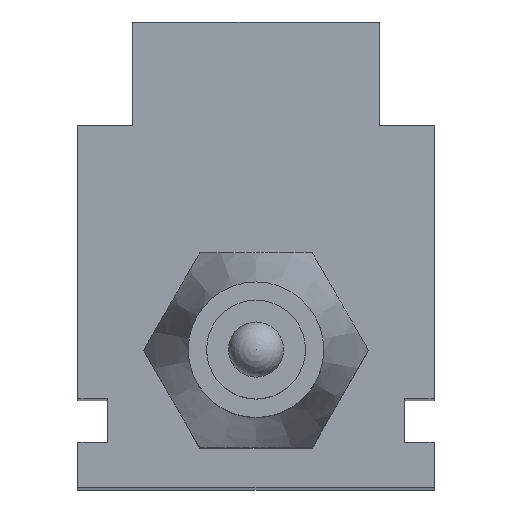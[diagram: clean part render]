
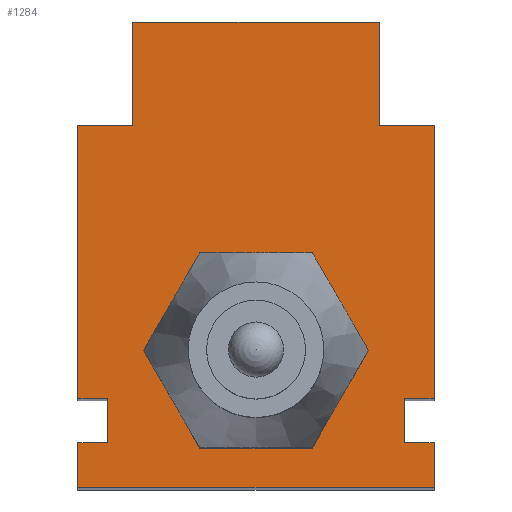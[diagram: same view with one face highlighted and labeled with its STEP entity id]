
A CAD part, top view. The second image highlights one B-rep face of the part: STEP entity #1284.
In plain terms, the highlighted planar face has unit normal (0, 0, 1).
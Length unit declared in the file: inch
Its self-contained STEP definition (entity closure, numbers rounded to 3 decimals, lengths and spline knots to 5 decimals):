
#40=FACE_BOUND('',#164,.T.);
#61=CIRCLE('',#1375,0.178);
#85=FACE_OUTER_BOUND('',#163,.T.);
#163=EDGE_LOOP('',(#853,#854,#855,#856,#857,#858,#859,#860,#861,#862,#863,
#864,#865,#866,#867,#868));
#164=EDGE_LOOP('',(#869));
#269=LINE('',#1824,#410);
#270=LINE('',#1827,#411);
#272=LINE('',#1831,#413);
#275=LINE('',#1837,#416);
#276=LINE('',#1839,#417);
#277=LINE('',#1841,#418);
#278=LINE('',#1843,#419);
#279=LINE('',#1845,#420);
#280=LINE('',#1847,#421);
#281=LINE('',#1849,#422);
#282=LINE('',#1851,#423);
#283=LINE('',#1853,#424);
#284=LINE('',#1855,#425);
#285=LINE('',#1857,#426);
#286=LINE('',#1859,#427);
#287=LINE('',#1860,#428);
#410=VECTOR('',#1489,0.3937);
#411=VECTOR('',#1492,0.3937);
#413=VECTOR('',#1496,0.3937);
#416=VECTOR('',#1501,0.3937);
#417=VECTOR('',#1502,0.3937);
#418=VECTOR('',#1503,0.3937);
#419=VECTOR('',#1504,0.3937);
#420=VECTOR('',#1505,0.3937);
#421=VECTOR('',#1506,0.3937);
#422=VECTOR('',#1507,0.3937);
#423=VECTOR('',#1508,0.3937);
#424=VECTOR('',#1509,0.3937);
#425=VECTOR('',#1510,0.3937);
#426=VECTOR('',#1511,0.3937);
#427=VECTOR('',#1512,0.3937);
#428=VECTOR('',#1513,0.3937);
#545=VERTEX_POINT('',#1819);
#546=VERTEX_POINT('',#1822);
#547=VERTEX_POINT('',#1826);
#548=VERTEX_POINT('',#1830);
#550=VERTEX_POINT('',#1836);
#551=VERTEX_POINT('',#1838);
#552=VERTEX_POINT('',#1840);
#553=VERTEX_POINT('',#1842);
#554=VERTEX_POINT('',#1844);
#555=VERTEX_POINT('',#1846);
#556=VERTEX_POINT('',#1848);
#557=VERTEX_POINT('',#1850);
#558=VERTEX_POINT('',#1852);
#559=VERTEX_POINT('',#1854);
#560=VERTEX_POINT('',#1856);
#561=VERTEX_POINT('',#1858);
#562=VERTEX_POINT('',#1861);
#668=EDGE_CURVE('',#545,#546,#269,.T.);
#669=EDGE_CURVE('',#546,#547,#270,.T.);
#671=EDGE_CURVE('',#545,#548,#272,.T.);
#674=EDGE_CURVE('',#550,#547,#275,.T.);
#675=EDGE_CURVE('',#550,#551,#276,.T.);
#676=EDGE_CURVE('',#551,#552,#277,.T.);
#677=EDGE_CURVE('',#553,#552,#278,.T.);
#678=EDGE_CURVE('',#554,#553,#279,.T.);
#679=EDGE_CURVE('',#555,#554,#280,.T.);
#680=EDGE_CURVE('',#556,#555,#281,.T.);
#681=EDGE_CURVE('',#557,#556,#282,.T.);
#682=EDGE_CURVE('',#558,#557,#283,.T.);
#683=EDGE_CURVE('',#559,#558,#284,.T.);
#684=EDGE_CURVE('',#560,#559,#285,.T.);
#685=EDGE_CURVE('',#561,#560,#286,.T.);
#686=EDGE_CURVE('',#548,#561,#287,.T.);
#687=EDGE_CURVE('',#562,#562,#61,.T.);
#853=ORIENTED_EDGE('',*,*,#668,.T.);
#854=ORIENTED_EDGE('',*,*,#669,.T.);
#855=ORIENTED_EDGE('',*,*,#674,.F.);
#856=ORIENTED_EDGE('',*,*,#675,.T.);
#857=ORIENTED_EDGE('',*,*,#676,.T.);
#858=ORIENTED_EDGE('',*,*,#677,.F.);
#859=ORIENTED_EDGE('',*,*,#678,.F.);
#860=ORIENTED_EDGE('',*,*,#679,.F.);
#861=ORIENTED_EDGE('',*,*,#680,.F.);
#862=ORIENTED_EDGE('',*,*,#681,.F.);
#863=ORIENTED_EDGE('',*,*,#682,.F.);
#864=ORIENTED_EDGE('',*,*,#683,.F.);
#865=ORIENTED_EDGE('',*,*,#684,.F.);
#866=ORIENTED_EDGE('',*,*,#685,.F.);
#867=ORIENTED_EDGE('',*,*,#686,.F.);
#868=ORIENTED_EDGE('',*,*,#671,.F.);
#869=ORIENTED_EDGE('',*,*,#687,.T.);
#1165=PLANE('',#1374);
#1284=ADVANCED_FACE('',(#85,#40),#1165,.T.);
#1374=AXIS2_PLACEMENT_3D('',#1835,#1499,#1500);
#1375=AXIS2_PLACEMENT_3D('',#1862,#1514,#1515);
#1489=DIRECTION('',(-1.,0.,0.));
#1492=DIRECTION('',(0.,1.,0.));
#1496=DIRECTION('',(0.,-1.,0.));
#1499=DIRECTION('center_axis',(0.,0.,1.));
#1500=DIRECTION('ref_axis',(1.,0.,0.));
#1501=DIRECTION('',(1.,0.,0.));
#1502=DIRECTION('',(0.,-1.,0.));
#1503=DIRECTION('',(-1.,0.,0.));
#1504=DIRECTION('',(0.,1.,0.));
#1505=DIRECTION('',(-1.,0.,0.));
#1506=DIRECTION('',(0.,1.,0.));
#1507=DIRECTION('',(1.,0.,0.));
#1508=DIRECTION('',(0.,1.,0.));
#1509=DIRECTION('',(-1.,0.,0.));
#1510=DIRECTION('',(0.,-1.,0.));
#1511=DIRECTION('',(1.,0.,0.));
#1512=DIRECTION('',(0.,-1.,0.));
#1513=DIRECTION('',(-1.,0.,0.));
#1514=DIRECTION('center_axis',(0.,0.,-1.));
#1515=DIRECTION('ref_axis',(1.,0.,0.));
#1819=CARTESIAN_POINT('',(0.35998,0.4564,-2.49197));
#1822=CARTESIAN_POINT('',(0.24877,0.4564,-2.49197));
#1824=CARTESIAN_POINT('',(0.12438,0.4564,-2.49197));
#1826=CARTESIAN_POINT('',(0.24877,0.6664,-2.49197));
#1827=CARTESIAN_POINT('',(0.24877,0.42011,-2.49197));
#1830=CARTESIAN_POINT('',(0.35998,-0.0936,-2.49197));
#1831=CARTESIAN_POINT('',(0.35998,0.6664,-2.49197));
#1835=CARTESIAN_POINT('Origin',(-0.00002,0.17382,
-2.49197));
#1836=CARTESIAN_POINT('',(-0.24877,0.6664,-2.49197));
#1837=CARTESIAN_POINT('',(-0.36002,0.6664,-2.49197));
#1838=CARTESIAN_POINT('',(-0.24877,0.4564,-2.49197));
#1839=CARTESIAN_POINT('',(-0.24877,0.42011,-2.49197));
#1840=CARTESIAN_POINT('',(-0.36002,0.4564,-2.49197));
#1841=CARTESIAN_POINT('',(-0.1244,0.4564,-2.49197));
#1842=CARTESIAN_POINT('',(-0.36002,-0.0936,-2.49197));
#1843=CARTESIAN_POINT('',(-0.36002,-0.0936,-2.49197));
#1844=CARTESIAN_POINT('',(-0.30002,-0.0936,-2.49197));
#1845=CARTESIAN_POINT('',(-0.30002,-0.0936,-2.49197));
#1846=CARTESIAN_POINT('',(-0.30002,-0.1836,-2.49197));
#1847=CARTESIAN_POINT('',(-0.30002,-0.1836,-2.49197));
#1848=CARTESIAN_POINT('',(-0.36002,-0.1836,-2.49197));
#1849=CARTESIAN_POINT('',(-0.36002,-0.1836,-2.49197));
#1850=CARTESIAN_POINT('',(-0.36002,-0.2736,-2.49197));
#1851=CARTESIAN_POINT('',(-0.36002,-0.2736,-2.49197));
#1852=CARTESIAN_POINT('',(0.35998,-0.2736,-2.49197));
#1853=CARTESIAN_POINT('',(0.35998,-0.2736,-2.49197));
#1854=CARTESIAN_POINT('',(0.35998,-0.1836,-2.49197));
#1855=CARTESIAN_POINT('',(0.35998,0.6664,-2.49197));
#1856=CARTESIAN_POINT('',(0.29998,-0.1836,-2.49197));
#1857=CARTESIAN_POINT('',(0.29998,-0.1836,-2.49197));
#1858=CARTESIAN_POINT('',(0.29998,-0.0936,-2.49197));
#1859=CARTESIAN_POINT('',(0.29998,-0.0936,-2.49197));
#1860=CARTESIAN_POINT('',(0.35998,-0.0936,-2.49197));
#1861=CARTESIAN_POINT('',(-0.178,0.,-2.49197));
#1862=CARTESIAN_POINT('Origin',(0.,0.,-2.49197));
